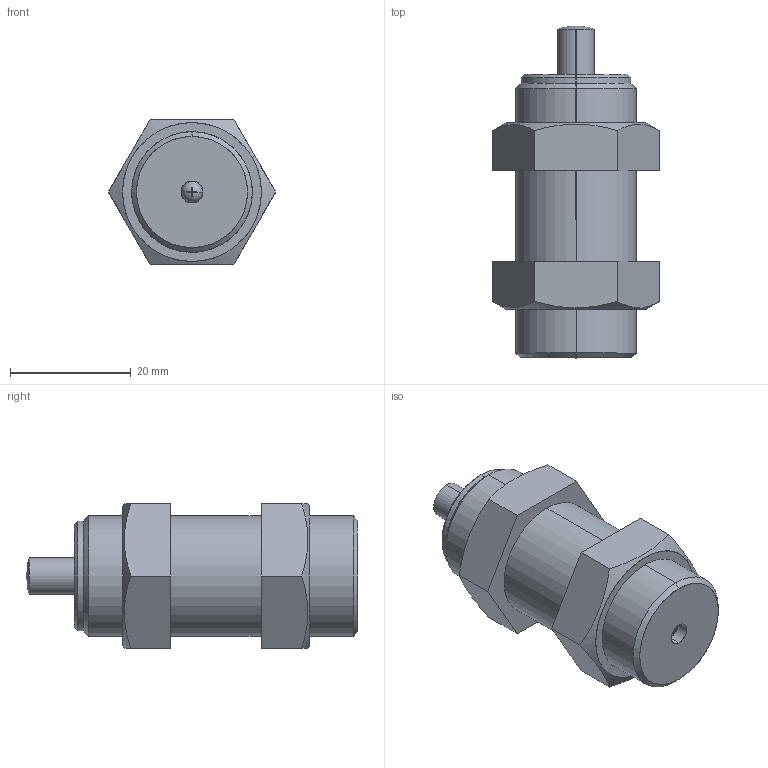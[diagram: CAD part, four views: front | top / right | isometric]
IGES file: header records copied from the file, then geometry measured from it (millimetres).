
Start section: SolidWorks IGES file using analytic representation for surfaces
Bounding box: 27.71 x 55 x 24 mm (x, y, z)
Surface area: 6199.2 mm2 (no closed solid volume)
Topology: 0 solids, 0 shells, 56 faces, 756 edges, 756 vertices
Faces by surface type: revolution 30, bspline 26
